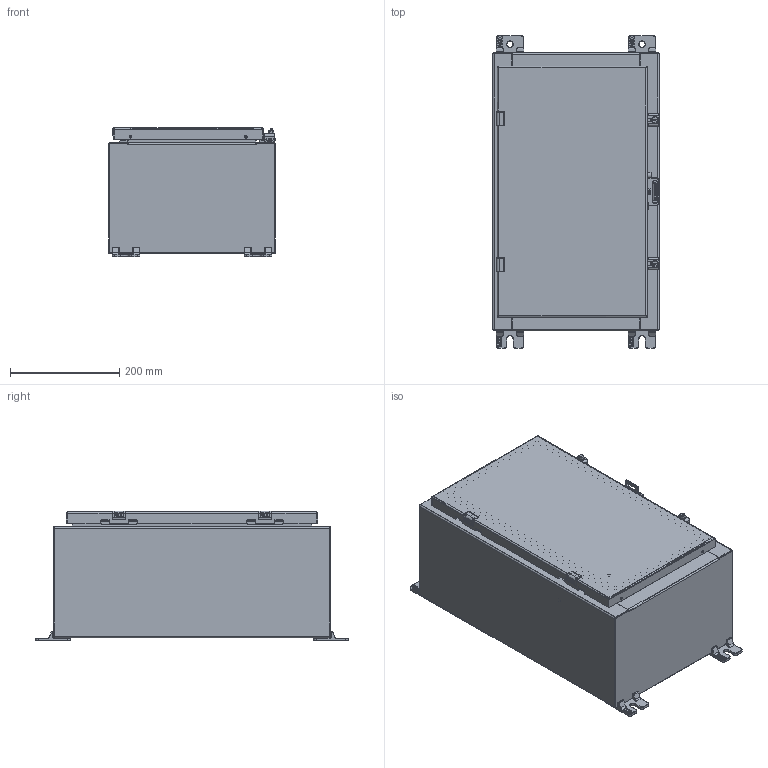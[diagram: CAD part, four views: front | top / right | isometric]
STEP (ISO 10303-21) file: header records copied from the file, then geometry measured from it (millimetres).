
FILE_DESCRIPTION((''),'2;1');
FILE_NAME('MODEL-309_ASM','2021-05-03T15:08:51',('JoshI'),('SAGINAW CONTROL & ENGINEERING'),'CREO PARAMETRIC BY PTC INC, 2017260','CREO PARAMETRIC BY PTC INC, 2017260','');
FILE_SCHEMA(('AUTOMOTIVE_DESIGN { 1 0 10303 214 1 1 1 1 }'));
Length unit declared in the file: inch
Products named in the file (35): MODEL-309-BDY; MODEL-309-TP; MODEL-309-BTM; MODEL-309-DR; 100837; MODEL-309-DOOR-GASKET; 126391; 126397; 126391_ASM; 126393; 102483; 101226; 101376; 102140; 115117; MODEL-309-DOOR-ASSY_ASM; 128630; 100059; 128630_ASM; 100921; 128631; 128631_ASM; 101651; 121452; 120132_BASE; 120132_CLAMP; 120132_SCREW; 120132_SPRING; 120132_ASM; 100882; 120133; SUBPANEL; 100904; SUBPANEL-SUBASSEMBLY_ASM; MODEL-309_ASM
Assembly tree (61 placements, depth 4):
  MODEL-309_ASM
    MODEL-309-BDY
    MODEL-309-TP
    MODEL-309-BTM
    MODEL-309-DOOR-ASSY_ASM
      MODEL-309-DR
      100837
      MODEL-309-DOOR-GASKET
      126391_ASM  x2
        126391
        126397
      126393  x2
      102483  x7
      101226  x2
      101376  x2
      102140  x2
      115117
    128630_ASM  x2
      128630
      100059
    100921  x4
    128631_ASM  x2
      128631
      100059
    100837
    101651  x4
    121452
    120132_ASM  x2
      120132_BASE
      120132_CLAMP
      120132_SCREW
      120132_SPRING
    100882  x3
    120133
    SUBPANEL-SUBASSEMBLY_ASM
      SUBPANEL
      100904  x4
Bounding box: 304.8 x 571.5 x 237.44 mm (x, y, z)
Volume: 1929677.2 mm3; surface area: 1781061.2 mm2
Topology: 60 solids, 60 shells, 4240 faces, 10737 edges, 6708 vertices
Faces by surface type: plane 1546, cylinder 1272, bspline 669, torus 524, cone 132, sphere 97
Entity records: 112029 total; most frequent: CARTESIAN_POINT 34984, ORIENTED_EDGE 11112, DIRECTION 10653, PRESENTATION_STYLE_ASSIGNMENT 5688, STYLED_ITEM 5688, CURVE_STYLE 5556, EDGE_CURVE 5556, AXIS2_PLACEMENT_3D 3960
